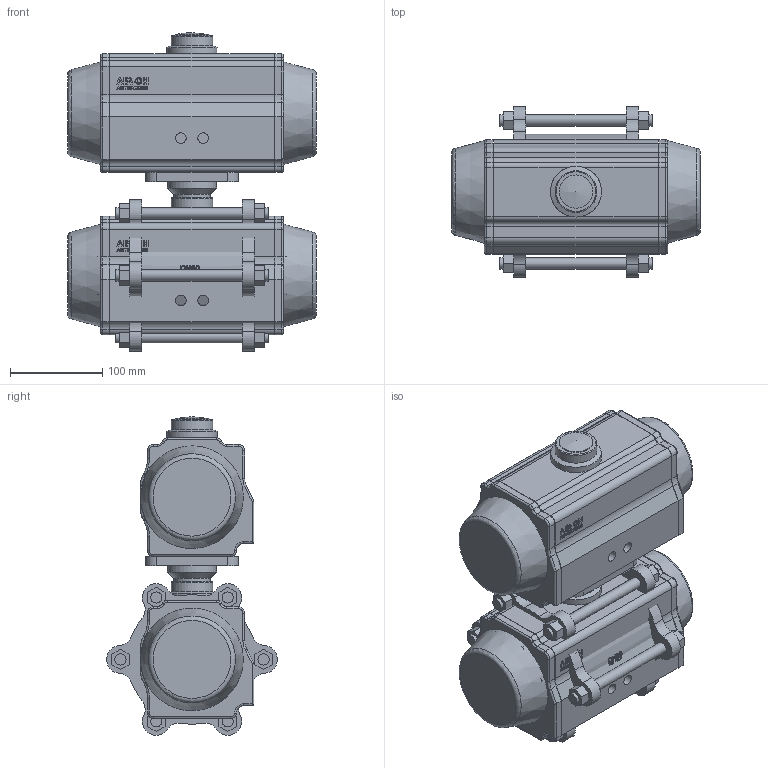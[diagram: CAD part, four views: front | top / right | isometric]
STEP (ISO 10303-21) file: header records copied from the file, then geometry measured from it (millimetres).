
FILE_DESCRIPTION( ( 'Unknown' ), '1' );
FILE_NAME( 'W:/ECCUA/ROOTSI BPS 3D vidinad/Kuulkraanid/Roostevaba kuulkraanid/Ball valve BPS 2420/Ball valve with pneumatic actuator BPS/STEP format/BPS 2420080P ball valve DN80.stp', 'Unknown', ( 'Unknown' ), ( 'Unknown' ), 'PSStep 10.1', 'Unknown', ' ' );
FILE_SCHEMA( ( 'AUTOMOTIVE_DESIGN { 1 0 10303 214 1 1 1 1 }' ) );
Length unit declared in the file: millimetre
Products named in the file (5): Assem1; BPS 2420080 ball valve DN80; BPS 8300100DA-SR pneumatic actuator
Bounding box: 269 x 184.73 x 344.5 mm (x, y, z)
Volume: 10088844.6 mm3; surface area: 872735 mm2
Topology: 8 solids, 8 shells, 1312 faces, 3302 edges, 2164 vertices
Faces by surface type: plane 560, cylinder 372, extrusion 202, bspline 90, torus 62, cone 24, sphere 2
Full cylindrical faces by diameter (mm): 6.647 x8, 8.376 x8, 11.445 x4, 12 x36, 36 x2, 40 x2, 45 x2, 53 x2, 55 x2, 76 x2, 84.926 x4, 125 x2
Entity records: 31201 total; most frequent: CARTESIAN_POINT 11234, ORIENTED_EDGE 3070, DIRECTION 2640, EDGE_CURVE 1535, VERTEX_POINT 1047, AXIS2_PLACEMENT_3D 888, VECTOR 864, EDGE_LOOP 826
